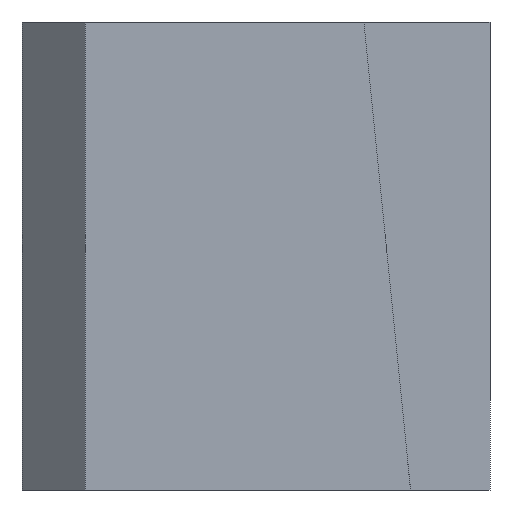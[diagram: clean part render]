
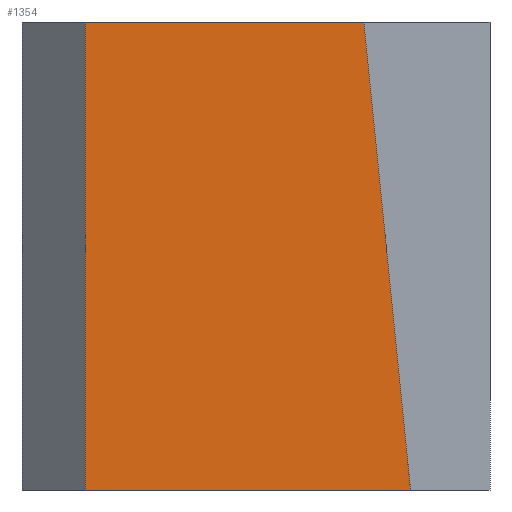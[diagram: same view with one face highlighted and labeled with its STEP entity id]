
A CAD part, left-side view. The second image highlights one B-rep face of the part: STEP entity #1354.
In plain terms, the highlighted planar face has unit normal (-1, 0, 0).
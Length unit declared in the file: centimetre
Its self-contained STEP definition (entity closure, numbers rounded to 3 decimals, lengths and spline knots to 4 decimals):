
#20 = DIRECTION ( 'NONE',  ( 0., 0., -1. ) ) ;
#40 = PLANE ( 'NONE',  #710 ) ;
#126 = DIRECTION ( 'NONE',  ( 0., -1., 0. ) ) ;
#133 = DIRECTION ( 'NONE',  ( 0., -0.099, -0.995 ) ) ;
#243 = ORIENTED_EDGE ( 'NONE', *, *, #1378, .T. ) ;
#271 = CARTESIAN_POINT ( 'NONE',  ( 0., 864.9184, 1000. ) ) ;
#284 = EDGE_CURVE ( 'NONE', #1033, #509, #1021, .T. ) ;
#362 = CARTESIAN_POINT ( 'NONE',  ( 0., 269.4842, 1000. ) ) ;
#383 = CARTESIAN_POINT ( 'NONE',  ( 0., 864.9184, 1000. ) ) ;
#424 = FACE_OUTER_BOUND ( 'NONE', #1747, .T. ) ;
#455 = CARTESIAN_POINT ( 'NONE',  ( 0., 169.6685, 0. ) ) ;
#509 = VERTEX_POINT ( 'NONE', #455 ) ;
#510 = VECTOR ( 'NONE', #126, 100. ) ;
#601 = LINE ( 'NONE', #1127, #1548 ) ;
#705 = ORIENTED_EDGE ( 'NONE', *, *, #805, .F. ) ;
#710 = AXIS2_PLACEMENT_3D ( 'NONE', #886, #1022, #1454 ) ;
#805 = EDGE_CURVE ( 'NONE', #1527, #1033, #1099, .T. ) ;
#886 = CARTESIAN_POINT ( 'NONE',  ( 0., 1000., 1000. ) ) ;
#1002 = VERTEX_POINT ( 'NONE', #1048 ) ;
#1021 = LINE ( 'NONE', #1292, #1359 ) ;
#1022 = DIRECTION ( 'NONE',  ( 1., 0., 0. ) ) ;
#1033 = VERTEX_POINT ( 'NONE', #362 ) ;
#1048 = CARTESIAN_POINT ( 'NONE',  ( 0., 864.9184, 0. ) ) ;
#1071 = VECTOR ( 'NONE', #20, 100. ) ;
#1090 = ORIENTED_EDGE ( 'NONE', *, *, #284, .F. ) ;
#1099 = LINE ( 'NONE', #1545, #510 ) ;
#1127 = CARTESIAN_POINT ( 'NONE',  ( 0., 1000., 0. ) ) ;
#1150 = EDGE_CURVE ( 'NONE', #1527, #1002, #1689, .T. ) ;
#1292 = CARTESIAN_POINT ( 'NONE',  ( 0., 269.4842, 1000. ) ) ;
#1354 = ADVANCED_FACE ( 'NONE', ( #424 ), #40, .F. ) ;
#1359 = VECTOR ( 'NONE', #133, 100. ) ;
#1378 = EDGE_CURVE ( 'NONE', #1002, #509, #601, .T. ) ;
#1454 = DIRECTION ( 'NONE',  ( 0., 0., -1. ) ) ;
#1527 = VERTEX_POINT ( 'NONE', #383 ) ;
#1545 = CARTESIAN_POINT ( 'NONE',  ( 0., 1000., 1000. ) ) ;
#1548 = VECTOR ( 'NONE', #1709, 100. ) ;
#1689 = LINE ( 'NONE', #271, #1071 ) ;
#1709 = DIRECTION ( 'NONE',  ( 0., -1., 0. ) ) ;
#1747 = EDGE_LOOP ( 'NONE', ( #243, #1090, #705, #1775 ) ) ;
#1775 = ORIENTED_EDGE ( 'NONE', *, *, #1150, .T. ) ;
